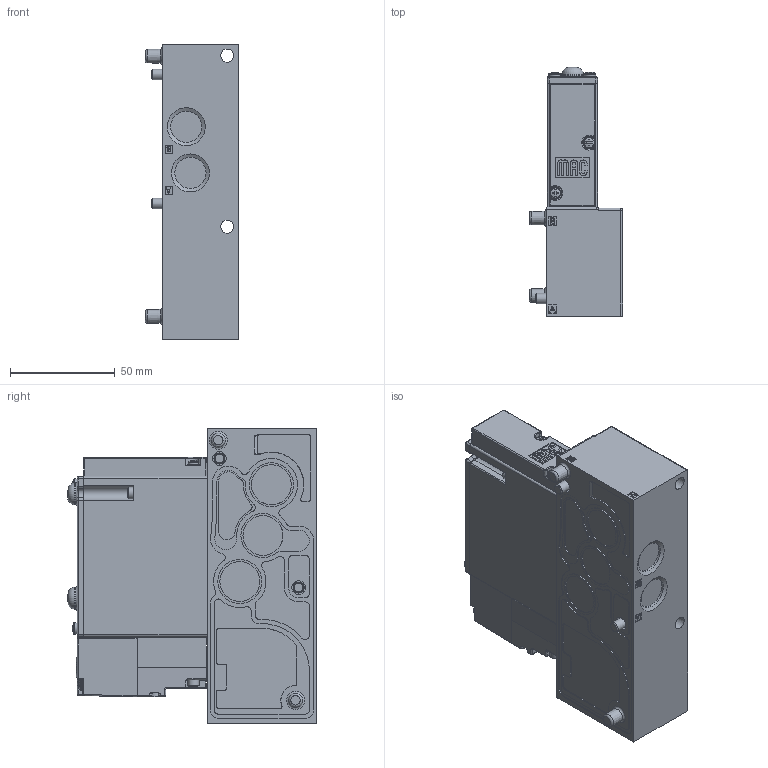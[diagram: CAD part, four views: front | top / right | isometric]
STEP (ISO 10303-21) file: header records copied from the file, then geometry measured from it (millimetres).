
FILE_DESCRIPTION (( 'STEP AP214' ), '1' );
FILE_NAME ('92A-AAA-C4J-DM-DXXP-YZZ.STEP', '2019-07-05T15:05:42', ( 'user' ), ( '' ), 'SwSTEP 2.0', 'SolidWorks 2014', '' );
FILE_SCHEMA (( 'AUTOMOTIVE_DESIGN' ));
Length unit declared in the file: millimetre
Products named in the file (6): 92-OPERATOR-DXXP-YDM; 92-PILOT-DM; 92-BODY-AAA; 92-BASE-C4J; 92A-AAA-C4J-DM-DXXP-YZZ; 92-OVERRIDE-1
Assembly tree (5 placements, depth 2):
  92A-AAA-C4J-DM-DXXP-YZZ
    92-BASE-C4J
    92-BODY-AAA
    92-PILOT-DM
    92-OPERATOR-DXXP-YDM
    92-OVERRIDE-1
Bounding box: 44.5 x 118.6 x 141 mm (x, y, z)
Volume: 409371.3 mm3; surface area: 78979.3 mm2
Topology: 27 solids, 31 shells, 2230 faces, 5686 edges, 3692 vertices
Faces by surface type: plane 1228, cylinder 628, cone 167, bspline 118, torus 49, sphere 40
Full cylindrical faces by diameter (mm): 0.01 x2, 0.72 x1, 0.74 x1, 0.85 x1, 0.95 x2, 1 x1, 2 x2, 2.2 x2, 2.4 x2, 2.5 x2, 2.6 x2, 2.7 x1, 2.79 x4, 3 x10, 3.15 x2, 3.25 x2, 3.3 x4, 3.35 x2, 3.6 x1, 4.775 x2, 5 x3, 5.1 x1, 5.25 x2, 5.5 x8, 5.6 x1, 6.185 x2, 6.22 x1, 6.6 x2, 6.8 x2, 6.92 x1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
Entity records: 95646 total; most frequent: CARTESIAN_POINT 17528, ORIENTED_EDGE 10934, DIRECTION 10803, EDGE_CURVE 5467, AXIS2_PLACEMENT_3D 3675, VERTEX_POINT 3664, VECTOR 3453, LINE 3453
